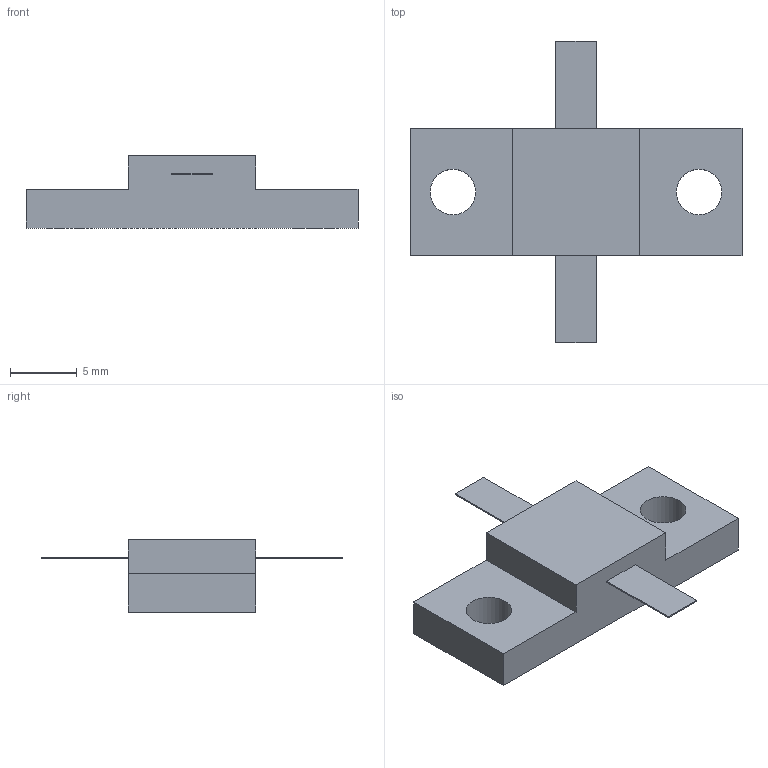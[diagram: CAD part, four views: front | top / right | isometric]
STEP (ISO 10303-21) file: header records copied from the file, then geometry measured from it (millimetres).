
FILE_DESCRIPTION(('STEP AP203'), '1');
FILE_NAME('P1-170-250-40', '', ('UNSPECIFIED'), ('UNSPECIFIED'), 'ASCON STEP Converter 1.6', 'ASCON Math Kernel', '');
FILE_SCHEMA(('CONFIG_CONTROL_DESIGN'));
Length unit declared in the file: millimetre
Bounding box: 24.8 x 22.5 x 5.4 mm (x, y, z)
Volume: 860.1 mm3; surface area: 871.4 mm2
Topology: 1 solids, 1 shells, 22 faces, 54 edges, 36 vertices
Faces by surface type: plane 20, cylinder 2
Full cylindrical faces by diameter (mm): 3.4 x2
Entity records: 860 total; most frequent: CARTESIAN_POINT 111, ORIENTED_EDGE 104, DIRECTION 102, EDGE_CURVE 52, LINE 48, VECTOR 48, VERTEX_POINT 36, EDGE_LOOP 30
